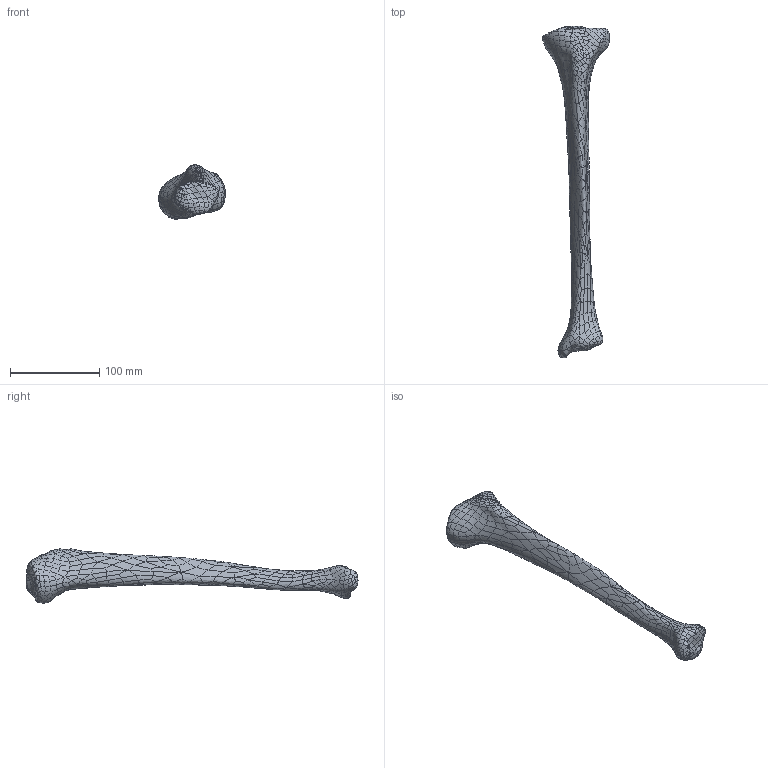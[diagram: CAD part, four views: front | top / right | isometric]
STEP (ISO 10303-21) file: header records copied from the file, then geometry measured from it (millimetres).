
FILE_DESCRIPTION (( 'STEP AP203' ), '1' );
FILE_NAME ('1101.STEP', '2025-05-26T11:48:49', ( '' ), ( '' ), 'SwSTEP 2.0', 'SolidWorks 2024', '' );
FILE_SCHEMA (( 'CONFIG_CONTROL_DESIGN' ));
Products named in the file (1): 1101
Bounding box: 75.16 x 372.91 x 60.79 mm (x, y, z)
Volume: 284221.3 mm3; surface area: 40412.4 mm2
Topology: 1 solids, 1 shells, 1116 faces, 2411 edges, 1304 vertices
Faces by surface type: bspline 1114, plane 2
Entity records: 129681 total; most frequent: CARTESIAN_POINT 114165, ORIENTED_EDGE 4822, B_SPLINE_CURVE_WITH_KNOTS 2411, EDGE_CURVE 2411, VERTEX_POINT 1304, EDGE_LOOP 1123, FACE_OUTER_BOUND 1116, ADVANCED_FACE 1116
